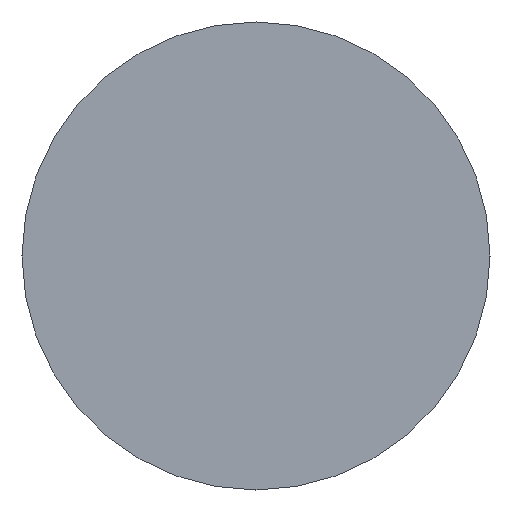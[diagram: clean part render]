
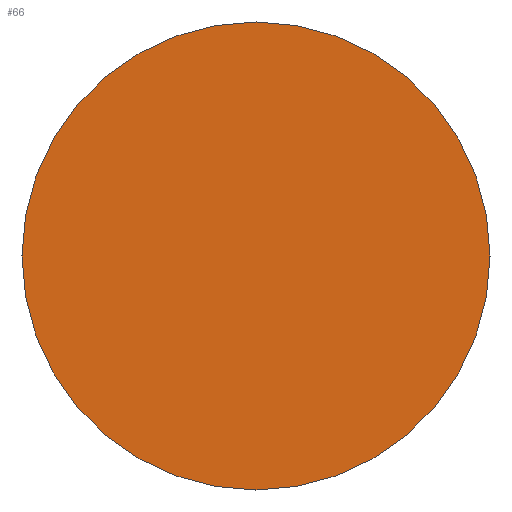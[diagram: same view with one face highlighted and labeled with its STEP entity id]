
A CAD part, left-side view. The second image highlights one B-rep face of the part: STEP entity #66.
In plain terms, the highlighted planar face has unit normal (-1, 0, 0).
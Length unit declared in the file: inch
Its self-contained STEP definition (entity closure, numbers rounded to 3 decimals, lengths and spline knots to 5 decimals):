
#6 = DIRECTION ( 'NONE',  ( -1., 0., 0. ) ) ;
#14 = DIRECTION ( 'NONE',  ( 0., 0., 1. ) ) ;
#44 = CARTESIAN_POINT ( 'NONE',  ( -7., 0., 0.375 ) ) ;
#60 = CIRCLE ( 'NONE', #432, 0.375 ) ;
#66 = ADVANCED_FACE ( 'NONE', ( #442 ), #140, .F. ) ;
#79 = DIRECTION ( 'NONE',  ( 0., 0., 1. ) ) ;
#95 = EDGE_LOOP ( 'NONE', ( #465, #165 ) ) ;
#126 = AXIS2_PLACEMENT_3D ( 'NONE', #370, #404, #182 ) ;
#140 = PLANE ( 'NONE',  #126 ) ;
#144 = CARTESIAN_POINT ( 'NONE',  ( -7., 0., -0.375 ) ) ;
#165 = ORIENTED_EDGE ( 'NONE', *, *, #206, .T. ) ;
#182 = DIRECTION ( 'NONE',  ( 0., 0., -1. ) ) ;
#206 = EDGE_CURVE ( 'NONE', #274, #242, #60, .T. ) ;
#229 = CIRCLE ( 'NONE', #394, 0.375 ) ;
#242 = VERTEX_POINT ( 'NONE', #44 ) ;
#274 = VERTEX_POINT ( 'NONE', #144 ) ;
#289 = DIRECTION ( 'NONE',  ( -1., 0., 0. ) ) ;
#338 = CARTESIAN_POINT ( 'NONE',  ( -7., 0., 0. ) ) ;
#343 = EDGE_CURVE ( 'NONE', #242, #274, #229, .T. ) ;
#370 = CARTESIAN_POINT ( 'NONE',  ( -7., 0.375, 0. ) ) ;
#394 = AXIS2_PLACEMENT_3D ( 'NONE', #338, #6, #79 ) ;
#396 = CARTESIAN_POINT ( 'NONE',  ( -7., 0., 0. ) ) ;
#404 = DIRECTION ( 'NONE',  ( 1., 0., 0. ) ) ;
#432 = AXIS2_PLACEMENT_3D ( 'NONE', #396, #289, #14 ) ;
#442 = FACE_OUTER_BOUND ( 'NONE', #95, .T. ) ;
#465 = ORIENTED_EDGE ( 'NONE', *, *, #343, .T. ) ;
